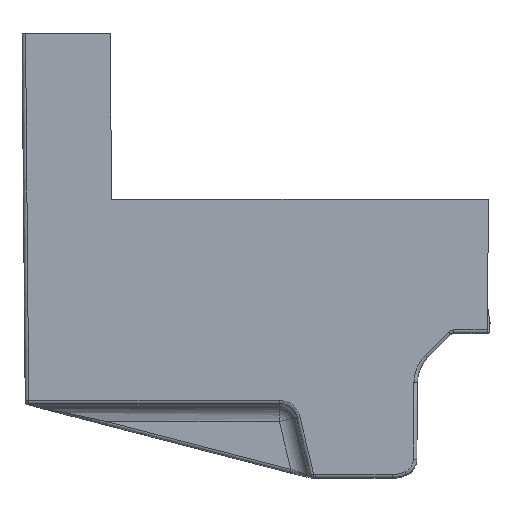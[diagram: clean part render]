
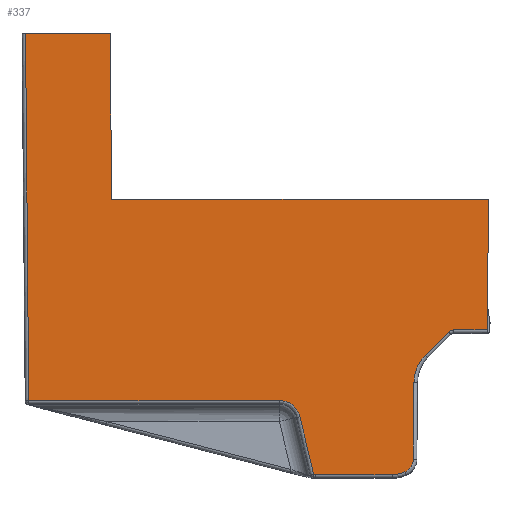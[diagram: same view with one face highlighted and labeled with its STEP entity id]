
A CAD part, top view. The second image highlights one B-rep face of the part: STEP entity #337.
In plain terms, the highlighted planar face has unit normal (0, -0.009, 1).
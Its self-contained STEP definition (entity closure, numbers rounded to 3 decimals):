
#337=ADVANCED_FACE('',(#618),#540,.T.);
#540=PLANE('',#3525);
#618=FACE_OUTER_BOUND('',#821,.T.);
#821=EDGE_LOOP('',(#1642,#1643,#1644,#1645,#1646,#1647,#1648,#1649,#1650,
#1651,#1652,#1653,#1654,#1655,#1656,#1657,#1658));
#1054=LINE('',#4988,#1340);
#1055=LINE('',#4992,#1341);
#1056=LINE('',#4996,#1342);
#1057=LINE('',#4998,#1343);
#1058=LINE('',#5000,#1344);
#1059=LINE('',#5002,#1345);
#1060=LINE('',#5004,#1346);
#1061=LINE('',#5006,#1347);
#1062=LINE('',#5008,#1348);
#1063=LINE('',#5012,#1349);
#1064=LINE('',#5016,#1350);
#1340=VECTOR('',#3940,1.);
#1341=VECTOR('',#3943,1.);
#1342=VECTOR('',#3946,1.);
#1343=VECTOR('',#3947,1.);
#1344=VECTOR('',#3948,1.);
#1345=VECTOR('',#3949,1.);
#1346=VECTOR('',#3950,1.);
#1347=VECTOR('',#3951,1.);
#1348=VECTOR('',#3952,1.);
#1349=VECTOR('',#3955,1.);
#1350=VECTOR('',#3958,1.);
#1642=ORIENTED_EDGE('',*,*,#2944,.F.);
#1643=ORIENTED_EDGE('',*,*,#2945,.T.);
#1644=ORIENTED_EDGE('',*,*,#2946,.T.);
#1645=ORIENTED_EDGE('',*,*,#2947,.T.);
#1646=ORIENTED_EDGE('',*,*,#2948,.T.);
#1647=ORIENTED_EDGE('',*,*,#2949,.T.);
#1648=ORIENTED_EDGE('',*,*,#2950,.T.);
#1649=ORIENTED_EDGE('',*,*,#2951,.F.);
#1650=ORIENTED_EDGE('',*,*,#2952,.F.);
#1651=ORIENTED_EDGE('',*,*,#2953,.F.);
#1652=ORIENTED_EDGE('',*,*,#2954,.T.);
#1653=ORIENTED_EDGE('',*,*,#2955,.T.);
#1654=ORIENTED_EDGE('',*,*,#2956,.T.);
#1655=ORIENTED_EDGE('',*,*,#2957,.T.);
#1656=ORIENTED_EDGE('',*,*,#2958,.T.);
#1657=ORIENTED_EDGE('',*,*,#2959,.T.);
#1658=ORIENTED_EDGE('',*,*,#2960,.T.);
#2644=VERTEX_POINT('',#4986);
#2645=VERTEX_POINT('',#4987);
#2646=VERTEX_POINT('',#4989);
#2647=VERTEX_POINT('',#4991);
#2648=VERTEX_POINT('',#4993);
#2649=VERTEX_POINT('',#4995);
#2650=VERTEX_POINT('',#4997);
#2651=VERTEX_POINT('',#4999);
#2652=VERTEX_POINT('',#5001);
#2653=VERTEX_POINT('',#5003);
#2654=VERTEX_POINT('',#5005);
#2655=VERTEX_POINT('',#5007);
#2656=VERTEX_POINT('',#5009);
#2657=VERTEX_POINT('',#5011);
#2658=VERTEX_POINT('',#5013);
#2659=VERTEX_POINT('',#5015);
#2660=VERTEX_POINT('',#5017);
#2944=EDGE_CURVE('',#2644,#2645,#3412,.T.);
#2945=EDGE_CURVE('',#2644,#2646,#1054,.T.);
#2946=EDGE_CURVE('',#2646,#2647,#3413,.T.);
#2947=EDGE_CURVE('',#2647,#2648,#1055,.T.);
#2948=EDGE_CURVE('',#2648,#2649,#3414,.T.);
#2949=EDGE_CURVE('',#2649,#2650,#1056,.T.);
#2950=EDGE_CURVE('',#2650,#2651,#1057,.T.);
#2951=EDGE_CURVE('',#2652,#2651,#1058,.T.);
#2952=EDGE_CURVE('',#2653,#2652,#1059,.T.);
#2953=EDGE_CURVE('',#2654,#2653,#1060,.T.);
#2954=EDGE_CURVE('',#2654,#2655,#1061,.T.);
#2955=EDGE_CURVE('',#2655,#2656,#1062,.T.);
#2956=EDGE_CURVE('',#2656,#2657,#3415,.T.);
#2957=EDGE_CURVE('',#2657,#2658,#1063,.T.);
#2958=EDGE_CURVE('',#2658,#2659,#3416,.T.);
#2959=EDGE_CURVE('',#2659,#2660,#1064,.T.);
#2960=EDGE_CURVE('',#2660,#2645,#3417,.T.);
#3412=ELLIPSE('',#3519,4.,4.);
#3413=ELLIPSE('',#3520,11.,11.);
#3414=ELLIPSE('',#3521,2.,2.);
#3415=ELLIPSE('',#3522,6.,6.);
#3416=ELLIPSE('',#3523,9.,9.);
#3417=ELLIPSE('',#3524,9.,9.);
#3519=AXIS2_PLACEMENT_3D('',#4985,#3938,#3939);
#3520=AXIS2_PLACEMENT_3D('',#4990,#3941,#3942);
#3521=AXIS2_PLACEMENT_3D('',#4994,#3944,#3945);
#3522=AXIS2_PLACEMENT_3D('',#5010,#3953,#3954);
#3523=AXIS2_PLACEMENT_3D('',#5014,#3956,#3957);
#3524=AXIS2_PLACEMENT_3D('',#5018,#3959,#3960);
#3525=AXIS2_PLACEMENT_3D('',#5019,#3961,#3962);
#3938=DIRECTION('',(0.,0.009,-1.));
#3939=DIRECTION('',(0.,-1.,-0.009));
#3940=DIRECTION('',(0.009,1.,0.009));
#3941=DIRECTION('',(0.,0.009,-1.));
#3942=DIRECTION('',(0.,-1.,-0.009));
#3943=DIRECTION('',(0.707,0.707,0.006));
#3944=DIRECTION('',(0.,0.009,-1.));
#3945=DIRECTION('',(0.,-1.,-0.009));
#3946=DIRECTION('',(1.,0.,0.));
#3947=DIRECTION('',(0.009,1.,0.009));
#3948=DIRECTION('',(1.,0.,0.));
#3949=DIRECTION('',(0.009,-1.,-0.009));
#3950=DIRECTION('',(1.,0.,0.));
#3951=DIRECTION('',(0.009,-1.,-0.009));
#3952=DIRECTION('',(1.,0.,0.));
#3953=DIRECTION('',(0.,0.009,-1.));
#3954=DIRECTION('',(0.,1.,0.009));
#3955=DIRECTION('',(0.232,-0.973,-0.008));
#3956=DIRECTION('',(0.,-0.009,1.));
#3957=DIRECTION('',(0.,1.,0.009));
#3958=DIRECTION('',(1.,0.,0.));
#3959=DIRECTION('',(0.,-0.009,1.));
#3960=DIRECTION('',(0.,-1.,-0.009));
#3961=DIRECTION('',(0.,-0.009,1.));
#3962=DIRECTION('',(0.,-1.,-0.009));
#4985=CARTESIAN_POINT('',(-24.978,-73.596,24.547));
#4986=CARTESIAN_POINT('',(-20.978,-73.631,24.547));
#4987=CARTESIAN_POINT('',(-23.387,-77.266,24.515));
#4988=CARTESIAN_POINT('',(-21.025,-79.004,24.5));
#4989=CARTESIAN_POINT('',(-20.788,-51.843,24.737));
#4990=CARTESIAN_POINT('',(-9.788,-51.939,24.736));
#4991=CARTESIAN_POINT('',(-17.566,-44.161,24.804));
#4992=CARTESIAN_POINT('',(-36.953,-63.548,24.635));
#4993=CARTESIAN_POINT('',(-11.,-37.595,24.861));
#4994=CARTESIAN_POINT('',(-9.586,-39.009,24.849));
#4995=CARTESIAN_POINT('',(-9.586,-37.009,24.866));
#4996=CARTESIAN_POINT('',(-21.5,-37.009,24.866));
#4997=CARTESIAN_POINT('',(0.009,-37.009,24.866));
#4998=CARTESIAN_POINT('',(-0.359,-79.184,24.498));
#4999=CARTESIAN_POINT('',(0.332,0.,25.189));
#5000=CARTESIAN_POINT('',(-21.5,0.,25.189));
#5001=CARTESIAN_POINT('',(-106.5,0.,25.189));
#5002=CARTESIAN_POINT('',(-105.804,-79.736,24.494));
#5003=CARTESIAN_POINT('',(-106.91,47.,25.6));
#5004=CARTESIAN_POINT('',(-21.5,47.,25.6));
#5005=CARTESIAN_POINT('',(-130.903,47.,25.6));
#5006=CARTESIAN_POINT('',(-129.996,-57.,24.692));
#5007=CARTESIAN_POINT('',(-129.996,-57.009,24.692));
#5008=CARTESIAN_POINT('',(-58.949,-57.009,24.692));
#5009=CARTESIAN_POINT('',(-58.949,-57.009,24.692));
#5010=CARTESIAN_POINT('',(-58.949,-63.009,24.64));
#5011=CARTESIAN_POINT('',(-53.112,-61.619,24.652));
#5012=CARTESIAN_POINT('',(-49.049,-78.685,24.503));
#5013=CARTESIAN_POINT('',(-49.213,-77.995,24.509));
#5014=CARTESIAN_POINT('',(-48.725,-69.009,24.587));
#5015=CARTESIAN_POINT('',(-48.725,-78.009,24.509));
#5016=CARTESIAN_POINT('',(-26.966,-78.009,24.509));
#5017=CARTESIAN_POINT('',(-26.966,-78.009,24.509));
#5018=CARTESIAN_POINT('',(-26.966,-69.009,24.587));
#5019=CARTESIAN_POINT('',(-21.5,-79.,24.5));
